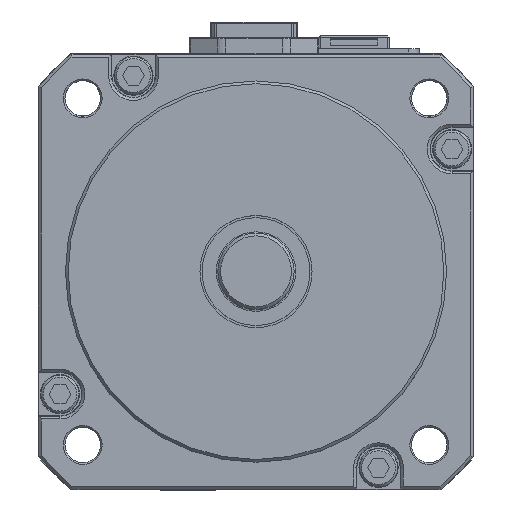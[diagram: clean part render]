
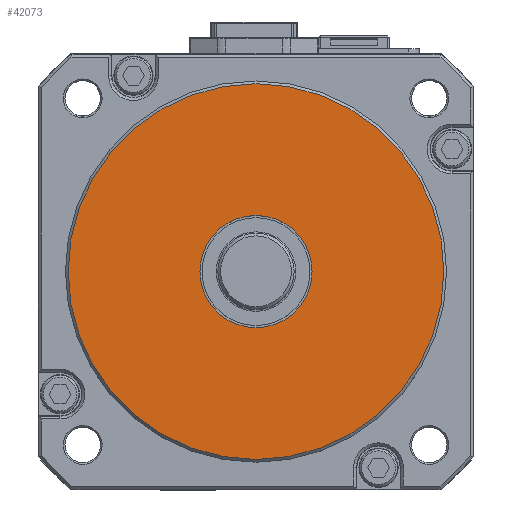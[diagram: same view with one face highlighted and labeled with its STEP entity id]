
A CAD part, top view. The second image highlights one B-rep face of the part: STEP entity #42073.
In plain terms, the highlighted planar face has unit normal (0, 0, 1).
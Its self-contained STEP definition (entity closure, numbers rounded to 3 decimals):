
#5900 = DIRECTION ( 'NONE',  ( 1., 0., 0. ) ) ;
#11291 = EDGE_LOOP ( 'NONE', ( #25423 ) ) ;
#11694 = ORIENTED_EDGE ( 'NONE', *, *, #43492, .F. ) ;
#11856 = AXIS2_PLACEMENT_3D ( 'NONE', #36655, #56242, #5900 ) ;
#13360 = EDGE_CURVE ( 'NONE', #63071, #63071, #63265, .T. ) ;
#16926 = PLANE ( 'NONE',  #11856 ) ;
#17250 = FACE_BOUND ( 'NONE', #47577, .T. ) ;
#18904 = VERTEX_POINT ( 'NONE', #32777 ) ;
#21714 = DIRECTION ( 'NONE',  ( 1., 0., 0. ) ) ;
#23351 = CIRCLE ( 'NONE', #59302, 10.3 ) ;
#25423 = ORIENTED_EDGE ( 'NONE', *, *, #13360, .T. ) ;
#26540 = DIRECTION ( 'NONE',  ( 0., 0., 1. ) ) ;
#27674 = CARTESIAN_POINT ( 'NONE',  ( 0., 0., 13. ) ) ;
#30736 = CARTESIAN_POINT ( 'NONE',  ( 0., 0., 13. ) ) ;
#32528 = DIRECTION ( 'NONE',  ( 0., 0., 1. ) ) ;
#32777 = CARTESIAN_POINT ( 'NONE',  ( 10.3, 0., 13. ) ) ;
#36655 = CARTESIAN_POINT ( 'NONE',  ( 0., 0., 13. ) ) ;
#38664 = CARTESIAN_POINT ( 'NONE',  ( 34.5, 0., 13. ) ) ;
#42073 = ADVANCED_FACE ( 'NONE', ( #17250, #56566 ), #16926, .T. ) ;
#43492 = EDGE_CURVE ( 'NONE', #18904, #18904, #23351, .T. ) ;
#47577 = EDGE_LOOP ( 'NONE', ( #11694 ) ) ;
#48270 = DIRECTION ( 'NONE',  ( 1., 0., 0. ) ) ;
#52955 = AXIS2_PLACEMENT_3D ( 'NONE', #30736, #26540, #21714 ) ;
#56242 = DIRECTION ( 'NONE',  ( 0., 0., 1. ) ) ;
#56566 = FACE_OUTER_BOUND ( 'NONE', #11291, .T. ) ;
#59302 = AXIS2_PLACEMENT_3D ( 'NONE', #27674, #32528, #48270 ) ;
#63071 = VERTEX_POINT ( 'NONE', #38664 ) ;
#63265 = CIRCLE ( 'NONE', #52955, 34.5 ) ;
